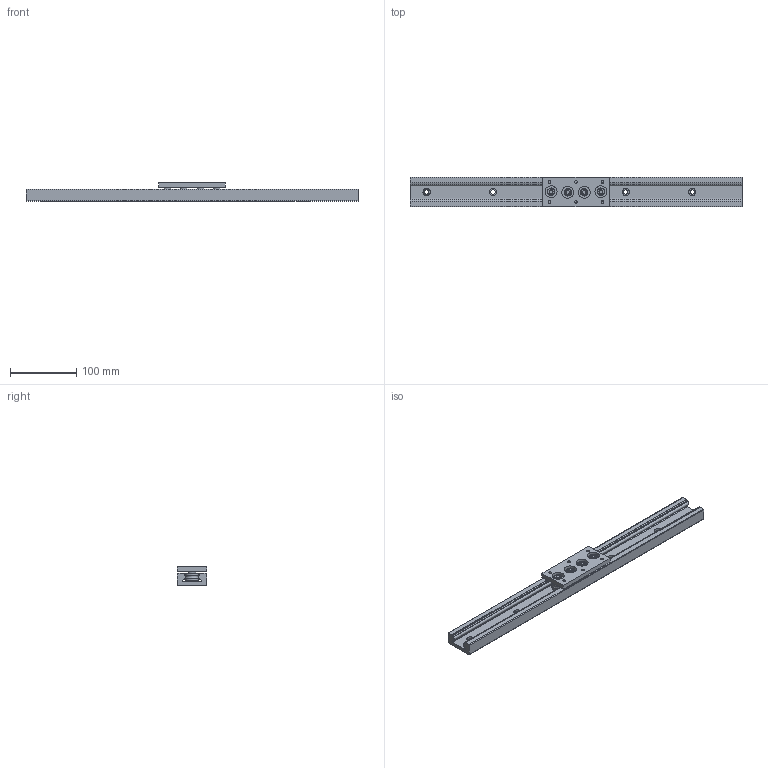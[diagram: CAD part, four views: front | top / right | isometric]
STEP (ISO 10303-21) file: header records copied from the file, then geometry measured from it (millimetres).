
FILE_DESCRIPTION((''),'2;1');
FILE_NAME('C:\Documents and Settings\土屋\My Documents\土屋移動用フォルダ\製品 (図面)\LSダウンロード用図面\LSI4528.stp','2017-01-20T14:34:44',('y'),(''),'Autodesk Inventor 11','Autodesk Inventor 11','');
FILE_SCHEMA(('AUTOMOTIVE_DESIGN { 1 0 10303 214 1 1 1 1 }'));
Length unit declared in the file: millimetre
Products named in the file (3): LSI4528; LSI4528レール; LSI4528キャリッジ
Assembly tree (2 placements, depth 2):
  LSI4528
    LSI4528レール
    LSI4528キャリッジ
Bounding box: 500 x 45 x 28 mm (x, y, z)
Volume: 305418.2 mm3; surface area: 99873.8 mm2
Topology: 2 solids, 2 shells, 204 faces, 454 edges, 287 vertices
Faces by surface type: plane 79, cone 52, cylinder 48, bspline 25
Full cylindrical faces by diameter (mm): 6 x4, 10.6 x8, 11 x4, 18 x4, 20 x8
Entity records: 5801 total; most frequent: CARTESIAN_POINT 1671, DIRECTION 841, ORIENTED_EDGE 778, EDGE_CURVE 389, AXIS2_PLACEMENT_3D 364, EDGE_LOOP 311, VERTEX_POINT 274, FACE_OUTER_BOUND 204
